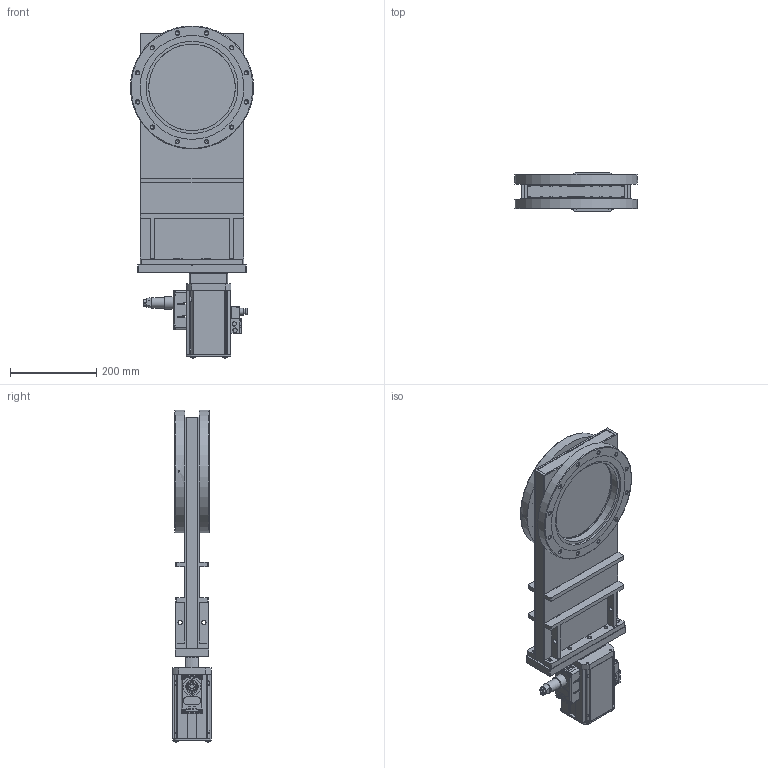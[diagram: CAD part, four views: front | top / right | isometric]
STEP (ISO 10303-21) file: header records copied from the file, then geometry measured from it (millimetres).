
FILE_DESCRIPTION(/* description */ (''),/* implementation_level */ '2;1');
FILE_NAME(/* name */ '1822074838_203.stp',/* time_stamp */ '2021-11-11T11:36:15+01:00',/* author */ (''),/* organization */ (''),/* preprocessor_version */ 'ST-DEVELOPER v16.7',/* originating_system */ 'SIEMENS PLM Software NX 1915',/* authorisation */ '');
FILE_SCHEMA (('AP203_CONFIGURATION_CONTROLLED_3D_DESIGN_OF_MECHANICAL_PARTS_AND_ASSEMBLIES_MIM_LF { 1 0 10303 403 2 1 2}'));
Length unit declared in the file: millimetre
Products named in the file (47): 833986_30471ID; 833986_30473ID; 834001_30475ID; 834001_30476ID; 834006_30478ID; 834014_30480ID; 834014_30481ID; 834046_30483ID; 834046_30484ID; 834046_30485ID; 834046_30486ID; 834044_30487ID; 834044_30488ID; 834044_30489ID; 834044_30469ID; n-6197-034.1; n-7100-007.2; 395614; 94220-01.1; 94224-01.2; 23964-01.1_30462ID; 23964-01.1_30466ID; n-6099-511.1; 982213; 467882; 437235; N-6024-571.1; 85949-01.1; 67114-01.1; 65313-01.1; 842824; 74628-01.3; N-7557-016_2.1; N-5018-005.1; N-7557-016_1.1; N-6024-524.1; N-7557-018.1; n-6024-548.1; 70973-01.1; n-8504-002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
Assembly tree (72 placements, depth 4):
  899726
    94237-r1.2
      67114-01.1  x4
      85949-01.1
      N-6024-571.1  x4
      395615
        94224-01.2
        94220-01.1
        395614
        n-7100-007.2  x2
        n-6197-034.1
    778871  x6
    n-8504-002
    70973-01.1
    n-6024-548.1  x4
    N-7557-018.1
    N-6024-524.1  x9
    N-7557-016_1.1
    N-5018-005.1  x2
    N-7557-016_2.1
    74628-01.3
    N-7557-016_3.1_MODELNX-ARRAGMNTArrangement 1  x2
      437235
      467882
      982213
    889066_MODEL
      834047_MODEL
        834044_30469ID
        834044_30489ID
        834044_30488ID
        834044_30487ID
        834046_30486ID
        834046_30485ID
        834046_30484ID
        834046_30483ID
        834014_30481ID
        834014_30480ID
        834006_30478ID
        834001_30476ID
        834001_30475ID
        833986_30473ID
        833986_30471ID
      n-6099-511.1  x2
      23964-01.1_30466ID
      23964-01.1_30462ID
    842824
    65313-01.1
Bounding box: 285 x 90 x 767.8 mm (x, y, z)
Volume: 4820188.2 mm3; surface area: 1173982.7 mm2
Topology: 68 solids, 68 shells, 2537 faces, 6731 edges, 4518 vertices
Faces by surface type: plane 1673, cylinder 538, cone 152, torus 105, sphere 31, bspline 22, extrusion 16
Full cylindrical faces by diameter (mm): 0.6 x1, 0.725 x1, 1.5 x6, 1.66 x7, 2 x3, 2.125 x1, 2.5 x10, 2.65 x1, 3 x15, 3.2 x2, 3.3 x4, 3.4 x4, 3.5 x3, 4 x6, 4.05 x4, 4.2 x4, 4.22 x2, 4.35 x2, 4.4 x4, 4.45 x4, 4.5 x2, 4.625 x2, 5 x9, 5.3 x2, 5.4 x4, 5.8 x1, 5.9 x1, 6 x24, 6.6 x4, 6.7 x2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
Entity records: 69824 total; most frequent: CARTESIAN_POINT 17246, DIRECTION 9440, ORIENTED_EDGE 9406, EDGE_CURVE 4703, VERTEX_POINT 3418, VECTOR 3180, LINE 3164, AXIS2_PLACEMENT_3D 3130
